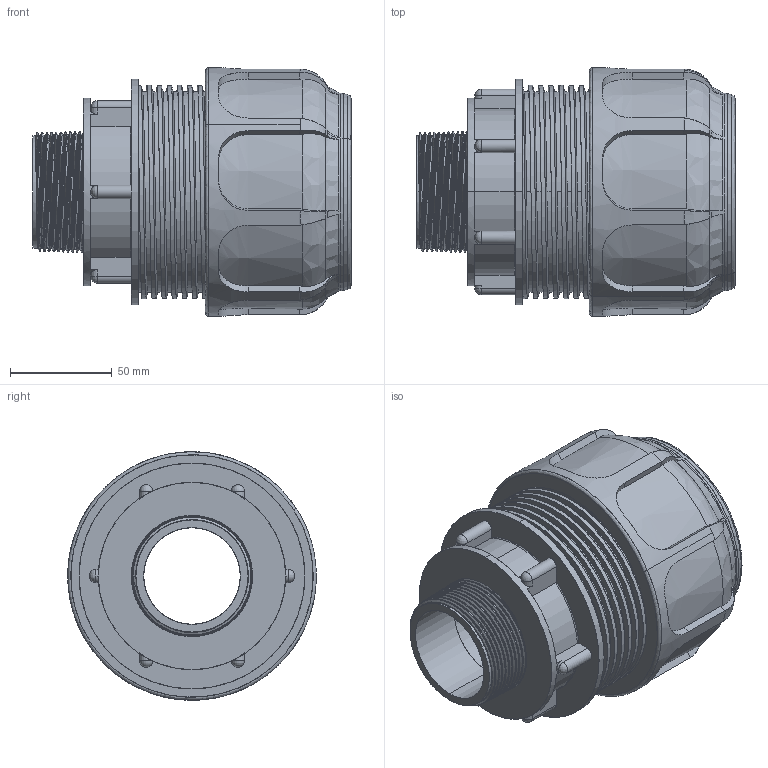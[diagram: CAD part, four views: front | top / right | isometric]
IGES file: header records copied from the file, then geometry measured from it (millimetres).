
Start section: SolidWorks IGES file using analytic representation for surfaces
Global section: file name: P:\DisegniUfficioTecnico\Articoli\ARTICOLI_3D\DISEGNI_STEP_IGS_SITO\02004\02004_IGS\02004.1560.IGS; native system: SolidWorks 2011; preprocessor: SolidWorks 2011; author: giacomo; date: 170522.163121; units: millimetre
Bounding box: 156.59 x 122.3 x 122.3 mm (x, y, z)
Surface area: 207182.8 mm2 (no closed solid volume)
Topology: 0 solids, 0 shells, 442 faces, 11795 edges, 11782 vertices
Faces by surface type: bspline 246, revolution 196
